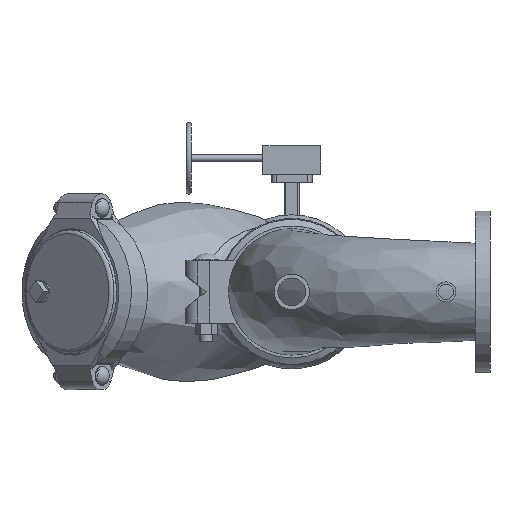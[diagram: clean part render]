
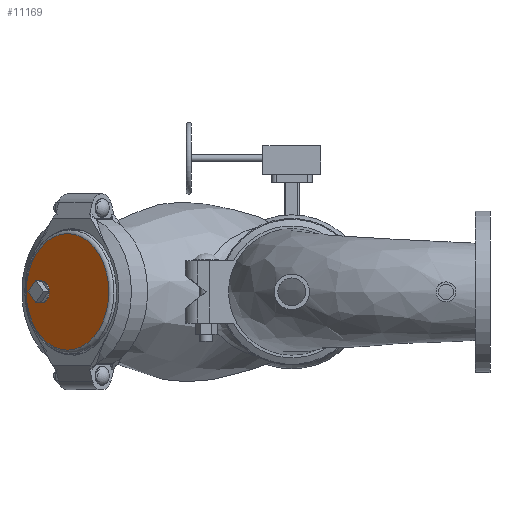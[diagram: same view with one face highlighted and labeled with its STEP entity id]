
A CAD part, front view. The second image highlights one B-rep face of the part: STEP entity #11169.
In plain terms, the highlighted planar face has unit normal (-0.707, -0.707, 0) as drawn and (1, 0, 0) by its records, which use the part's own axes.
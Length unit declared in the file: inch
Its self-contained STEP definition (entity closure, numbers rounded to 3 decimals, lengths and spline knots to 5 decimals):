
#2179=FACE_BOUND('',#3188,.T.);
#2535=FACE_OUTER_BOUND('',#3187,.T.);
#3187=EDGE_LOOP('',(#8226,#8227));
#3188=EDGE_LOOP('',(#8228));
#3837=CIRCLE('',#12319,0.75);
#3845=CIRCLE('',#12330,3.9705);
#3846=CIRCLE('',#12331,3.9705);
#4663=VERTEX_POINT('',#21893);
#4671=VERTEX_POINT('',#21914);
#4672=VERTEX_POINT('',#21915);
#5946=EDGE_CURVE('',#4663,#4663,#3837,.T.);
#5955=EDGE_CURVE('',#4671,#4672,#3845,.T.);
#5956=EDGE_CURVE('',#4672,#4671,#3846,.T.);
#8226=ORIENTED_EDGE('',*,*,#5955,.T.);
#8227=ORIENTED_EDGE('',*,*,#5956,.T.);
#8228=ORIENTED_EDGE('',*,*,#5946,.T.);
#10085=PLANE('',#12333);
#11169=ADVANCED_FACE('',(#2535,#2179),#10085,.T.);
#12319=AXIS2_PLACEMENT_3D('',#21895,#14474,#14475);
#12330=AXIS2_PLACEMENT_3D('',#21916,#14497,#14498);
#12331=AXIS2_PLACEMENT_3D('',#21917,#14499,#14500);
#12333=AXIS2_PLACEMENT_3D('',#21919,#14503,#14504);
#14474=DIRECTION('center_axis',(-1.,0.,0.));
#14475=DIRECTION('ref_axis',(0.,0.,1.));
#14497=DIRECTION('center_axis',(1.,0.,0.));
#14498=DIRECTION('ref_axis',(0.,0.,-1.));
#14499=DIRECTION('center_axis',(1.,0.,0.));
#14500=DIRECTION('ref_axis',(0.,0.,-1.));
#14503=DIRECTION('center_axis',(1.,0.,0.));
#14504=DIRECTION('ref_axis',(0.,0.,-1.));
#21893=CARTESIAN_POINT('',(1.57,2.5,-0.75));
#21895=CARTESIAN_POINT('Origin',(1.57,2.5,0.));
#21914=CARTESIAN_POINT('',(1.57,3.9705,0.));
#21915=CARTESIAN_POINT('',(1.57,0.,3.9705));
#21916=CARTESIAN_POINT('Origin',(1.57,0.,0.));
#21917=CARTESIAN_POINT('Origin',(1.57,0.,0.));
#21919=CARTESIAN_POINT('Origin',(1.57,0.,0.));
